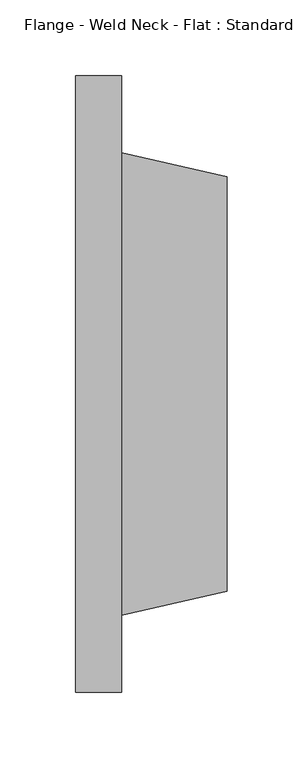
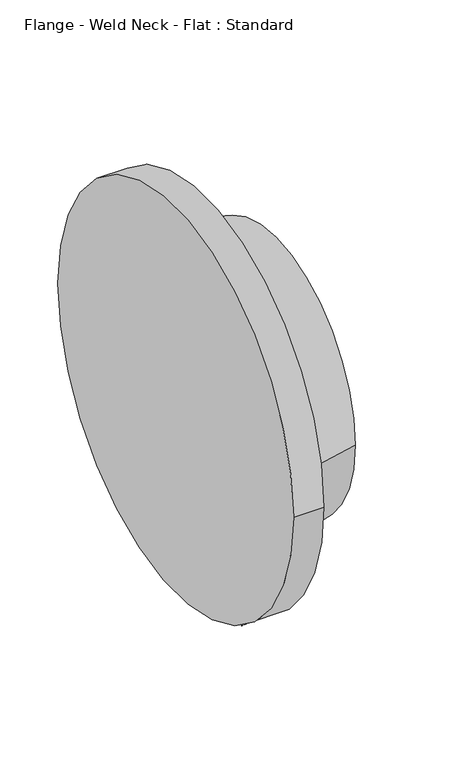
"""IFC4 building model written with IfcOpenShell, lengths in millimetres: valve geometry, Flange - Weld Neck - Flat : Standard."""

from ifc_helpers import new_model, si_unit, frame, origin, place, context, project, spatial, polyline, circle_curve, source, transform, mapped, element, save
from ifc_brep_helpers import plane_surface, cylinder_surface, revolved_surface, advanced_brep


def flange_weld_neck_flat_standard_ad964f2f(model_context):
    return source(origin(), model_context, "Body", "AdvancedBrep", [
        advanced_brep(
        [(1.5875, 203.2, 0.0), (1.5875, -203.2, 0.0), (31.75, 203.2, 0.0), (31.75, -203.2, 0.0), (31.75, -152.4, 0.0), (31.75, 152.4, 0.0), (101.6, 136.525, 0.0), (101.6, -136.525, 0.0)],
        [
            (0, 1, circle_curve(frame((1.5875, 0.0, 0.0), z_axis=(-1.0, 0.0, 0.0), x_axis=(0.0, -1.0, 0.0)), 203.2)),
            (1, 0, circle_curve(frame((1.5875, 0.0, 0.0), z_axis=(-1.0, 0.0, 0.0), x_axis=(0.0, -1.0, 0.0)), 203.2)),
            (2, 3, circle_curve(frame((31.75, 0.0, 0.0), z_axis=(1.0, 0.0, 0.0), x_axis=(0.0, -1.0, 0.0)), 203.2)),
            (3, 2, circle_curve(frame((31.75, 0.0, 0.0), z_axis=(1.0, 0.0, 0.0), x_axis=(0.0, -1.0, 0.0)), 203.2)),
            (4, 5, circle_curve(frame((31.75, 0.0, 0.0), z_axis=(-1.0, 0.0, 0.0), x_axis=(0.0, -1.0, 0.0)), 152.4)),
            (5, 4, circle_curve(frame((31.75, 0.0, 0.0), z_axis=(-1.0, 0.0, 0.0), x_axis=(0.0, 1.0, 0.0)), 152.4)),
            (1, 3),
            (2, 0),
            (6, 7, circle_curve(frame((101.6, 0.0, 0.0), z_axis=(1.0, 0.0, 0.0), x_axis=(0.0, -1.0, 0.0)), 136.525)),
            (7, 6, circle_curve(frame((101.6, 0.0, 0.0), z_axis=(1.0, 0.0, 0.0), x_axis=(0.0, 1.0, 0.0)), 136.525)),
            (7, 4),
            (5, 6),
        ],
        [
            plane_surface(frame((1.5875, 0.0, 0.0), z_axis=(-1.0, 0.0, 0.0), x_axis=(0.0, 0.0, 1.0))),
            plane_surface(frame((31.75, 0.0, 0.0), z_axis=(1.0, 0.0, 0.0), x_axis=(0.0, 0.0, 1.0))),
            cylinder_surface(frame((1.5875, 0.0, 0.0), z_axis=(-1.0, 0.0, 0.0), x_axis=(0.0, -1.0, 0.0)), 203.2),
            plane_surface(frame((101.6, 0.0, 0.0), z_axis=(1.0, 0.0, 0.0), x_axis=(0.0, 0.0, -1.0))),
            revolved_surface(polyline([(101.60000000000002, -136.525, 0.0), (31.75, -152.4, 0.0)]), (702.31, 0.0, 0.0), (-1.0, 0.0, 0.0)),
            revolved_surface(polyline([(101.60000000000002, 136.525, 0.0), (31.75, 152.4, 0.0)]), (702.31, 0.0, 0.0), (-1.0, 0.0, 0.0)),
        ],
        [
            (0, [[1, 2]]),
            (1, [[3, 4], [5, 6]]),
            (2, [[7, -3, 8, -2]]),
            (2, [[-8, -4, -7, -1]]),
            (3, [[9, 10]]),
            (4, [[11, -6, 12, -10]]),
            (5, [[-12, -5, -11, -9]]),
        ],
    ),
    ])


if __name__ == "__main__":
    model = new_model("IFC4")
    model_context = context("Model", 3, world=origin())
    ifc_project = project(units=[si_unit("LENGTHUNIT", "METRE", prefix="MILLI")], contexts=[model_context])
    site = spatial("IfcSite", under=ifc_project)
    building = spatial("IfcBuilding", under=site)
    placement = place(None, origin())
    flange_weld_neck_flat_standard_shape = flange_weld_neck_flat_standard_ad964f2f(model_context)
    element("IfcValve", 1, ObjectType="Flange - Weld Neck - Flat : Standard", at=placement, inside=building, context=model_context, shape_type="MappedRepresentation", body=[
        mapped(flange_weld_neck_flat_standard_shape, transform((0.0, 0.0, 0.0), x_axis=(1.0, 0.0, 0.0), y_axis=(0.0, 1.0, 0.0), z_axis=(0.0, 0.0, 1.0))),
    ])
    save(model, "model.ifc")
